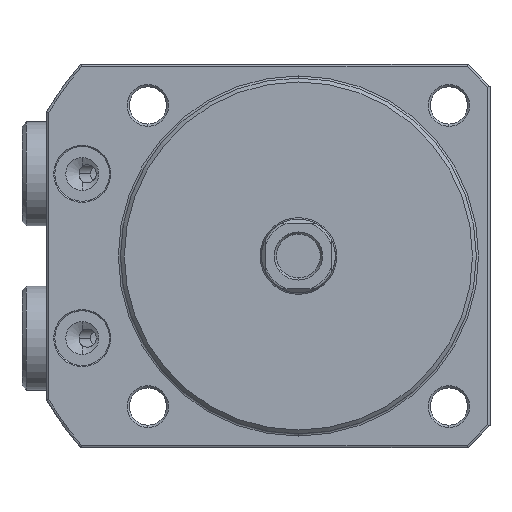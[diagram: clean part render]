
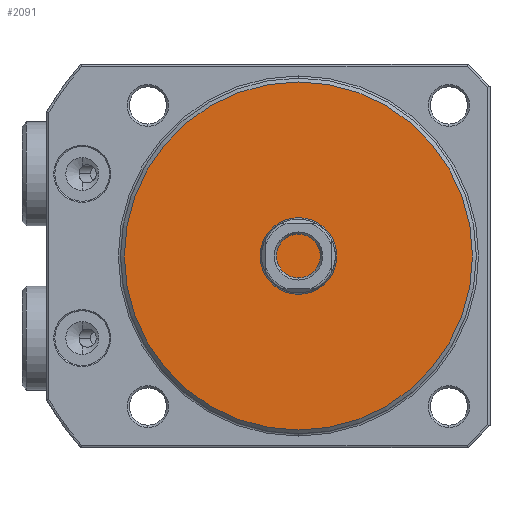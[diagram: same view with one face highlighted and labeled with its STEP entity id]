
A CAD part, front view. The second image highlights one B-rep face of the part: STEP entity #2091.
In plain terms, the highlighted planar face has unit normal (0, -1, 0) as drawn and (-1, 0, 0) by its records, which use the part's own axes.
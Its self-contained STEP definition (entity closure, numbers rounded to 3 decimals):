
#1705=PLANE('',#7880);
#2091=ADVANCED_FACE('',(#2514),#1705,.F.);
#2514=FACE_OUTER_BOUND('',#2897,.T.);
#2897=EDGE_LOOP('',(#4751));
#4751=ORIENTED_EDGE('',*,*,#6611,.T.);
#5884=VERTEX_POINT('',#11236);
#6611=EDGE_CURVE('',#5884,#5884,#7276,.T.);
#7276=CIRCLE('',#7879,31.8);
#7879=AXIS2_PLACEMENT_3D('',#11235,#9302,#9303);
#7880=AXIS2_PLACEMENT_3D('',#11237,#9304,#9305);
#9302=DIRECTION('',(-1.,0.,0.));
#9303=DIRECTION('',(0.,0.,-1.));
#9304=DIRECTION('',(1.,0.,0.));
#9305=DIRECTION('',(0.,0.,1.));
#11235=CARTESIAN_POINT('',(0.,0.,0.));
#11236=CARTESIAN_POINT('',(0.,0.,-31.8));
#11237=CARTESIAN_POINT('',(0.,0.,0.));
